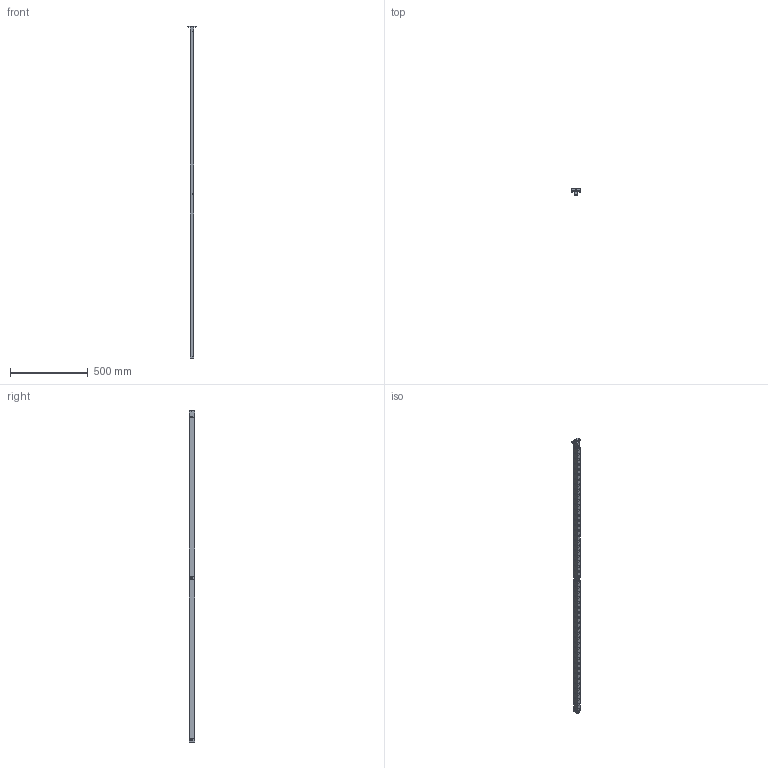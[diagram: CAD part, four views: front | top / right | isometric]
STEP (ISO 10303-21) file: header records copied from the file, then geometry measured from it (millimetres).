
FILE_DESCRIPTION(/* description */ (''),/* implementation_level */ '2;1');
FILE_NAME(/* name */ 'S:\EASCN Vault\Designs\Standard Part\DIE LIFTERS\EHB\EHB- 3D step\EHB22 - 3D step complete serie\EHB 22-52.stp',/* time_stamp */ '2019-11-21T16:41:11+08:00',/* author */ ('yue.yang'),/* organization */ (''),/* preprocessor_version */ 'ST-DEVELOPER v17',/* originating_system */ 'Autodesk Inventor 2019',/* authorisation */ '');
FILE_SCHEMA (('AUTOMOTIVE_DESIGN { 1 0 10303 214 3 1 1 }'));
Products named in the file (1): EHB 22-52_Shrinkwrap_1
Bounding box: 58 x 37.8 x 2129 mm (x, y, z)
Volume: 1364205.1 mm3; surface area: 534439.5 mm2
Topology: 175 solids, 175 shells, 1661 faces, 4602 edges, 3344 vertices
Faces by surface type: plane 562, cylinder 536, torus 260, cone 251, sphere 52
Full cylindrical faces by diameter (mm): 3 x3, 4.134 x1, 5 x27, 5.5 x5, 6 x54, 6.647 x2, 8 x2, 10 x8, 10.5 x1, 12.2 x52, 16 x52, 16.4 x52, 17.05 x52, 19.05 x52, 19.2 x52
Entity records: 62789 total; most frequent: CARTESIAN_POINT 15821, DIRECTION 10315, ORIENTED_EDGE 8880, AXIS2_PLACEMENT_3D 4617, EDGE_CURVE 4440, VERTEX_POINT 3344, CIRCLE 2953, EDGE_LOOP 2148
